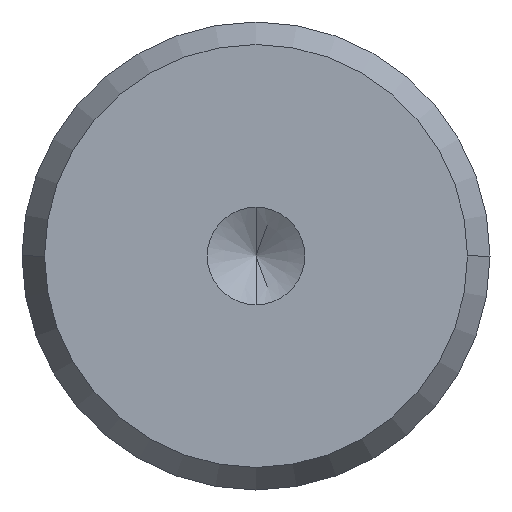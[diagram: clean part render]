
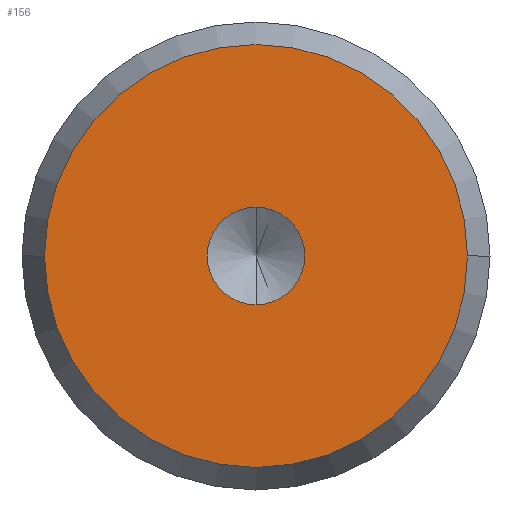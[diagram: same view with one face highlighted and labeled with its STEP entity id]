
A CAD part, front view. The second image highlights one B-rep face of the part: STEP entity #156.
In plain terms, the highlighted planar face has unit normal (0, -1, 0) as drawn and (0, 1, 0) by its records, which use the part's own axes.
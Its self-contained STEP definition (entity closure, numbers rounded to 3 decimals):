
#3 = CARTESIAN_POINT ( 'NONE',  ( 0., 13.53, 0. ) ) ;
#7 = CARTESIAN_POINT ( 'NONE',  ( 0., 13.53, 0. ) ) ;
#9 = EDGE_LOOP ( 'NONE', ( #232, #238 ) ) ;
#18 = VERTEX_POINT ( 'NONE', #504 ) ;
#20 = AXIS2_PLACEMENT_3D ( 'NONE', #7, #172, #229 ) ;
#43 = AXIS2_PLACEMENT_3D ( 'NONE', #97, #263, #377 ) ;
#70 = CARTESIAN_POINT ( 'NONE',  ( 0., 13.53, 1.25 ) ) ;
#74 = AXIS2_PLACEMENT_3D ( 'NONE', #96, #318, #324 ) ;
#96 = CARTESIAN_POINT ( 'NONE',  ( 0., 13.53, 0. ) ) ;
#97 = CARTESIAN_POINT ( 'NONE',  ( 0., 13.53, 0. ) ) ;
#100 = CIRCLE ( 'NONE', #20, 1.25 ) ;
#156 = ADVANCED_FACE ( 'NONE', ( #449, #602 ), #650, .T. ) ;
#161 = VERTEX_POINT ( 'NONE', #70 ) ;
#172 = DIRECTION ( 'NONE',  ( 0., 1., 0. ) ) ;
#175 = EDGE_LOOP ( 'NONE', ( #535, #556 ) ) ;
#177 = CARTESIAN_POINT ( 'NONE',  ( 0., 13.53, 0. ) ) ;
#229 = DIRECTION ( 'NONE',  ( 0., 0., 1. ) ) ;
#232 = ORIENTED_EDGE ( 'NONE', *, *, #406, .F. ) ;
#235 = VERTEX_POINT ( 'NONE', #584 ) ;
#238 = ORIENTED_EDGE ( 'NONE', *, *, #251, .F. ) ;
#251 = EDGE_CURVE ( 'NONE', #658, #161, #530, .T. ) ;
#263 = DIRECTION ( 'NONE',  ( 0., 1., 0. ) ) ;
#310 = EDGE_CURVE ( 'NONE', #18, #235, #640, .T. ) ;
#314 = CARTESIAN_POINT ( 'NONE',  ( 0., 13.53, -1.25 ) ) ;
#318 = DIRECTION ( 'NONE',  ( 0., 1., 0. ) ) ;
#324 = DIRECTION ( 'NONE',  ( 0., 0., 1. ) ) ;
#325 = DIRECTION ( 'NONE',  ( 0., 1., 0. ) ) ;
#377 = DIRECTION ( 'NONE',  ( -1., 0., 0. ) ) ;
#398 = DIRECTION ( 'NONE',  ( 0., 1., 0. ) ) ;
#406 = EDGE_CURVE ( 'NONE', #161, #658, #100, .T. ) ;
#449 = FACE_BOUND ( 'NONE', #9, .T. ) ;
#450 = EDGE_CURVE ( 'NONE', #235, #18, #629, .T. ) ;
#504 = CARTESIAN_POINT ( 'NONE',  ( -5.423, 13.53, 0. ) ) ;
#530 = CIRCLE ( 'NONE', #74, 1.25 ) ;
#535 = ORIENTED_EDGE ( 'NONE', *, *, #450, .T. ) ;
#539 = DIRECTION ( 'NONE',  ( -1., 0., 0. ) ) ;
#556 = ORIENTED_EDGE ( 'NONE', *, *, #310, .T. ) ;
#560 = AXIS2_PLACEMENT_3D ( 'NONE', #177, #398, #600 ) ;
#584 = CARTESIAN_POINT ( 'NONE',  ( 5.423, 13.53, 0. ) ) ;
#600 = DIRECTION ( 'NONE',  ( -1., 0., 0. ) ) ;
#602 = FACE_OUTER_BOUND ( 'NONE', #175, .T. ) ;
#629 = CIRCLE ( 'NONE', #680, 5.423 ) ;
#640 = CIRCLE ( 'NONE', #43, 5.423 ) ;
#650 = PLANE ( 'NONE',  #560 ) ;
#658 = VERTEX_POINT ( 'NONE', #314 ) ;
#680 = AXIS2_PLACEMENT_3D ( 'NONE', #3, #325, #539 ) ;
